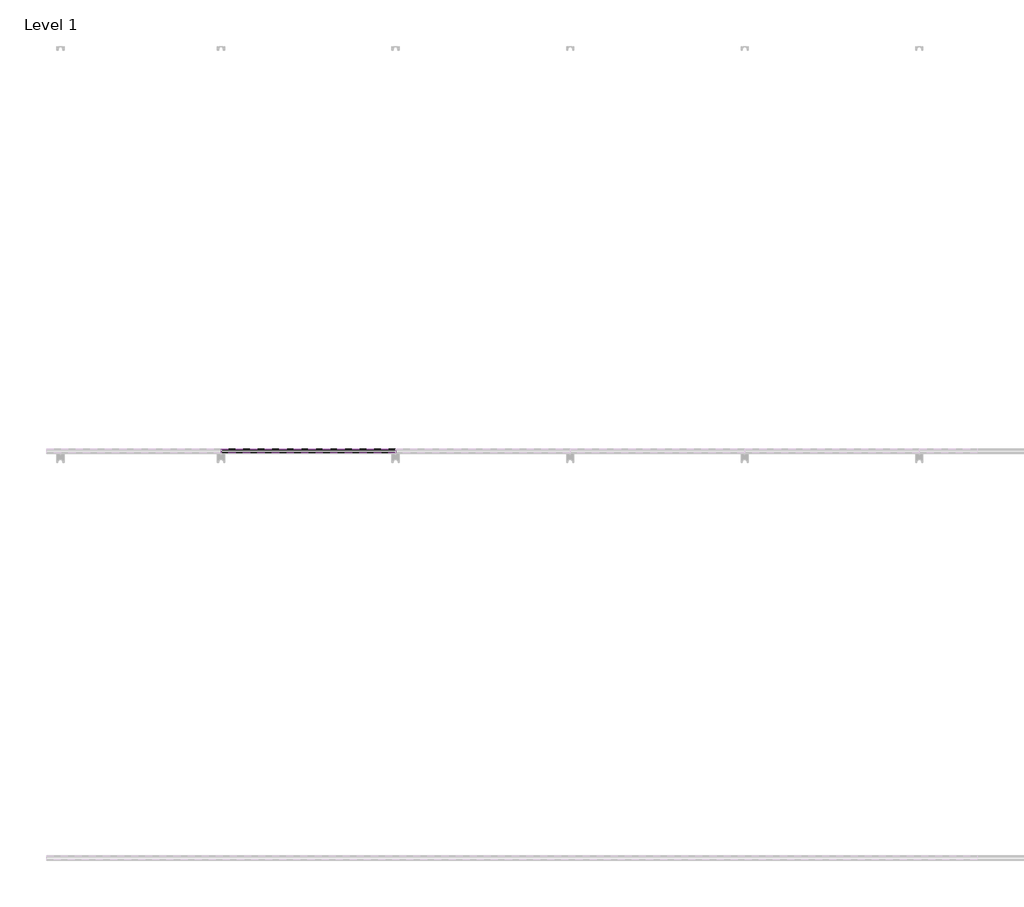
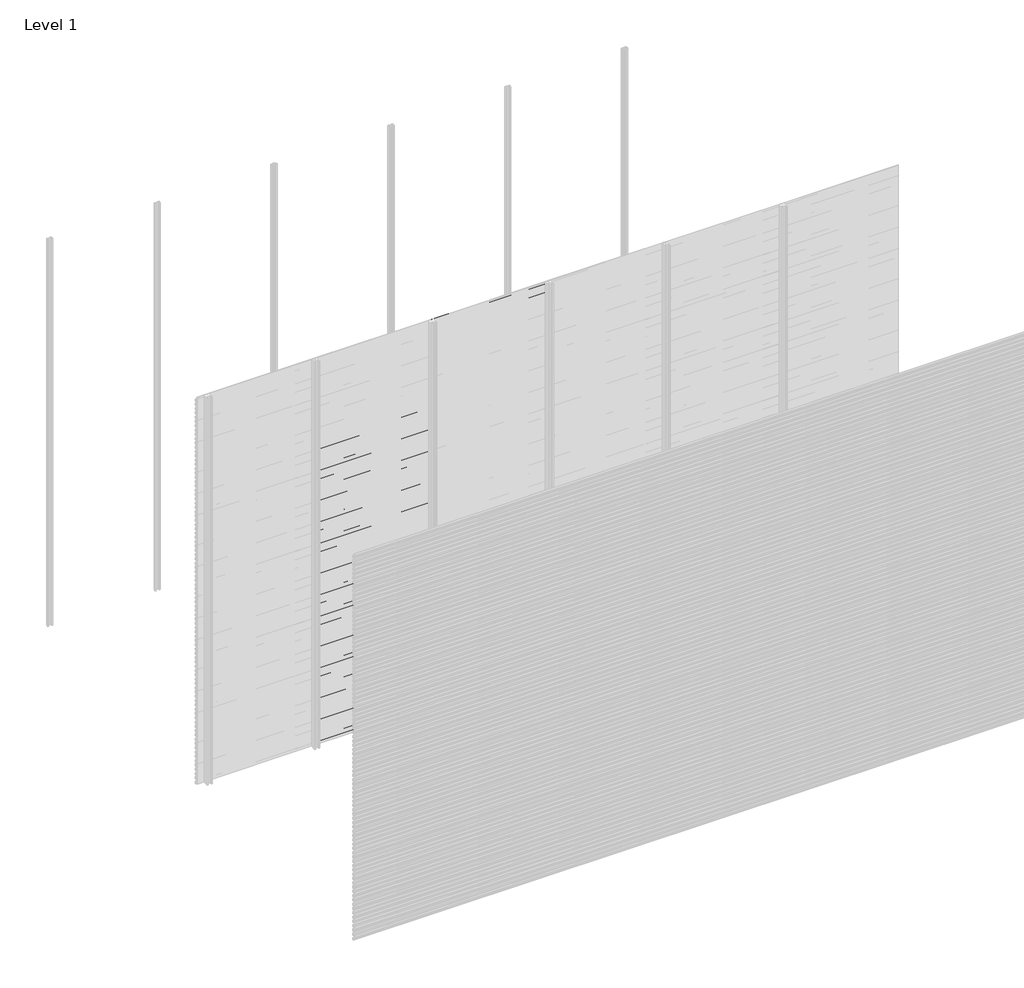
# One storey, part 72 of 96: 77 proxies.
"""IFC4 building model written with IfcOpenShell, lengths in millimetres."""

from ifc_helpers import new_model, si_unit, frame, origin, place, context, project, spatial, polyline, outline, extrude, element, save

model = new_model("IFC4")

# Units and contexts
model_context = context("Model", 3, world=origin())
ifc_project = project(units=[si_unit("LENGTHUNIT", "METRE", prefix="MILLI")], contexts=[model_context])

# Site, building, storey
site = spatial("IfcSite", under=ifc_project)
building = spatial("IfcBuilding", under=site)
storey = spatial("IfcBuildingStorey", under=building, Name="Level 1", Elevation=0.0)

# Proxies
placement = place(None, origin())
element("IfcBuildingElementProxy", 1, Name="Wall Sweeps", at=placement, inside=storey, context=model_context, shape_type="SweptSolid", body=[
    extrude(outline(polyline([(-11977.6, 2305.7655033), (-11977.6, 2291.4779188), (-11982.4114965, 2288.7), (-11982.4114965, 2289.9701706), (-11978.85, 2292.0264016), (-11978.85, 2305.0437382), (-11998.0, 2316.1000799), (-11998.0, 2331.0), (-11996.75, 2331.0), (-11996.75, 2316.8217609), (-11977.6, 2305.7655033)])), frame((857.1428571, 0.0, 0.0), z_axis=(1.0, 0.0, 0.0), x_axis=(0.0, 1.0, 0.0)), (0.0, 0.0, 1.0), 857.1428571),
])
element("IfcBuildingElementProxy", 2, Name="Wall Sweeps", at=placement, inside=storey, context=model_context, shape_type="SweptSolid", body=[
    extrude(outline(polyline([(-11977.6, 2272.4655033), (-11977.6, 2258.1779188), (-11982.4114965, 2255.4), (-11982.4114965, 2256.6701706), (-11978.85, 2258.7264016), (-11978.85, 2271.7437382), (-11998.0, 2282.8000799), (-11998.0, 2297.7), (-11996.75, 2297.7), (-11996.75, 2283.5217609), (-11977.6, 2272.4655033)])), frame((857.1428571, 0.0, 0.0), z_axis=(1.0, 0.0, 0.0), x_axis=(0.0, 1.0, 0.0)), (0.0, 0.0, 1.0), 857.1428571),
])
element("IfcBuildingElementProxy", 3, Name="Wall Sweeps", at=placement, inside=storey, context=model_context, shape_type="SweptSolid", body=[
    extrude(outline(polyline([(-11977.6, 2239.1655033), (-11977.6, 2224.8779188), (-11982.4114965, 2222.1), (-11982.4114965, 2223.3701706), (-11978.85, 2225.4264016), (-11978.85, 2238.4437382), (-11998.0, 2249.5000799), (-11998.0, 2264.4), (-11996.75, 2264.4), (-11996.75, 2250.2217609), (-11977.6, 2239.1655033)])), frame((857.1428571, 0.0, 0.0), z_axis=(1.0, 0.0, 0.0), x_axis=(0.0, 1.0, 0.0)), (0.0, 0.0, 1.0), 857.1428571),
])
element("IfcBuildingElementProxy", 4, Name="Wall Sweeps", at=placement, inside=storey, context=model_context, shape_type="SweptSolid", body=[
    extrude(outline(polyline([(-11977.6, 2205.8655033), (-11977.6, 2191.5779188), (-11982.4114965, 2188.8), (-11982.4114965, 2190.0701706), (-11978.85, 2192.1264016), (-11978.85, 2205.1437382), (-11998.0, 2216.2000799), (-11998.0, 2231.1), (-11996.75, 2231.1), (-11996.75, 2216.9217609), (-11977.6, 2205.8655033)])), frame((857.1428571, 0.0, 0.0), z_axis=(1.0, 0.0, 0.0), x_axis=(0.0, 1.0, 0.0)), (0.0, 0.0, 1.0), 857.1428571),
])
element("IfcBuildingElementProxy", 5, Name="Wall Sweeps", at=placement, inside=storey, context=model_context, shape_type="SweptSolid", body=[
    extrude(outline(polyline([(-11977.6, 2172.5655033), (-11977.6, 2158.2779188), (-11982.4114965, 2155.5), (-11982.4114965, 2156.7701706), (-11978.85, 2158.8264016), (-11978.85, 2171.8437382), (-11998.0, 2182.9000799), (-11998.0, 2197.8), (-11996.75, 2197.8), (-11996.75, 2183.6217609), (-11977.6, 2172.5655033)])), frame((857.1428571, 0.0, 0.0), z_axis=(1.0, 0.0, 0.0), x_axis=(0.0, 1.0, 0.0)), (0.0, 0.0, 1.0), 857.1428571),
])
element("IfcBuildingElementProxy", 6, Name="Wall Sweeps", at=placement, inside=storey, context=model_context, shape_type="SweptSolid", body=[
    extrude(outline(polyline([(-11977.6, 2139.2655033), (-11977.6, 2124.9779188), (-11982.4114965, 2122.2), (-11982.4114965, 2123.4701706), (-11978.85, 2125.5264016), (-11978.85, 2138.5437382), (-11998.0, 2149.6000799), (-11998.0, 2164.5), (-11996.75, 2164.5), (-11996.75, 2150.3217609), (-11977.6, 2139.2655033)])), frame((857.1428571, 0.0, 0.0), z_axis=(1.0, 0.0, 0.0), x_axis=(0.0, 1.0, 0.0)), (0.0, 0.0, 1.0), 857.1428571),
])
element("IfcBuildingElementProxy", 7, Name="Wall Sweeps", at=placement, inside=storey, context=model_context, shape_type="SweptSolid", body=[
    extrude(outline(polyline([(-11977.6, 2105.9655033), (-11977.6, 2091.6779188), (-11982.4114965, 2088.9), (-11982.4114965, 2090.1701706), (-11978.85, 2092.2264016), (-11978.85, 2105.2437382), (-11998.0, 2116.3000799), (-11998.0, 2131.2), (-11996.75, 2131.2), (-11996.75, 2117.0217609), (-11977.6, 2105.9655033)])), frame((857.1428571, 0.0, 0.0), z_axis=(1.0, 0.0, 0.0), x_axis=(0.0, 1.0, 0.0)), (0.0, 0.0, 1.0), 857.1428571),
])
element("IfcBuildingElementProxy", 8, Name="Wall Sweeps", at=placement, inside=storey, context=model_context, shape_type="SweptSolid", body=[
    extrude(outline(polyline([(-11977.6, 2072.6655033), (-11977.6, 2058.3779188), (-11982.4114965, 2055.6), (-11982.4114965, 2056.8701706), (-11978.85, 2058.9264016), (-11978.85, 2071.9437382), (-11998.0, 2083.0000799), (-11998.0, 2097.9), (-11996.75, 2097.9), (-11996.75, 2083.7217609), (-11977.6, 2072.6655033)])), frame((857.1428571, 0.0, 0.0), z_axis=(1.0, 0.0, 0.0), x_axis=(0.0, 1.0, 0.0)), (0.0, 0.0, 1.0), 857.1428571),
])
element("IfcBuildingElementProxy", 9, Name="Wall Sweeps", at=placement, inside=storey, context=model_context, shape_type="SweptSolid", body=[
    extrude(outline(polyline([(-11977.6, 2039.3655033), (-11977.6, 2025.0779188), (-11982.4114965, 2022.3), (-11982.4114965, 2023.5701706), (-11978.85, 2025.6264016), (-11978.85, 2038.6437382), (-11998.0, 2049.7000799), (-11998.0, 2064.6), (-11996.75, 2064.6), (-11996.75, 2050.4217609), (-11977.6, 2039.3655033)])), frame((857.1428571, 0.0, 0.0), z_axis=(1.0, 0.0, 0.0), x_axis=(0.0, 1.0, 0.0)), (0.0, 0.0, 1.0), 857.1428571),
])
element("IfcBuildingElementProxy", 10, Name="Wall Sweeps", at=placement, inside=storey, context=model_context, shape_type="SweptSolid", body=[
    extrude(outline(polyline([(-11977.6, 2006.0655033), (-11977.6, 1991.7779188), (-11982.4114965, 1989.0), (-11982.4114965, 1990.2701706), (-11978.85, 1992.3264016), (-11978.85, 2005.3437382), (-11998.0, 2016.4000799), (-11998.0, 2031.3), (-11996.75, 2031.3), (-11996.75, 2017.1217609), (-11977.6, 2006.0655033)])), frame((857.1428571, 0.0, 0.0), z_axis=(1.0, 0.0, 0.0), x_axis=(0.0, 1.0, 0.0)), (0.0, 0.0, 1.0), 857.1428571),
])
element("IfcBuildingElementProxy", 11, Name="Wall Sweeps", at=placement, inside=storey, context=model_context, shape_type="SweptSolid", body=[
    extrude(outline(polyline([(-11977.6, 1972.7655033), (-11977.6, 1958.4779188), (-11982.4114965, 1955.7), (-11982.4114965, 1956.9701706), (-11978.85, 1959.0264016), (-11978.85, 1972.0437382), (-11998.0, 1983.1000799), (-11998.0, 1998.0), (-11996.75, 1998.0), (-11996.75, 1983.8217609), (-11977.6, 1972.7655033)])), frame((857.1428571, 0.0, 0.0), z_axis=(1.0, 0.0, 0.0), x_axis=(0.0, 1.0, 0.0)), (0.0, 0.0, 1.0), 857.1428571),
])
element("IfcBuildingElementProxy", 12, Name="Wall Sweeps", at=placement, inside=storey, context=model_context, shape_type="SweptSolid", body=[
    extrude(outline(polyline([(-11977.6, 1939.4655033), (-11977.6, 1925.1779188), (-11982.4114965, 1922.4), (-11982.4114965, 1923.6701706), (-11978.85, 1925.7264016), (-11978.85, 1938.7437382), (-11998.0, 1949.8000799), (-11998.0, 1964.7), (-11996.75, 1964.7), (-11996.75, 1950.5217609), (-11977.6, 1939.4655033)])), frame((857.1428571, 0.0, 0.0), z_axis=(1.0, 0.0, 0.0), x_axis=(0.0, 1.0, 0.0)), (0.0, 0.0, 1.0), 857.1428571),
])
element("IfcBuildingElementProxy", 13, Name="Wall Sweeps", at=placement, inside=storey, context=model_context, shape_type="SweptSolid", body=[
    extrude(outline(polyline([(-11977.6, 1906.1655033), (-11977.6, 1891.8779188), (-11982.4114965, 1889.1), (-11982.4114965, 1890.3701706), (-11978.85, 1892.4264016), (-11978.85, 1905.4437382), (-11998.0, 1916.5000799), (-11998.0, 1931.4), (-11996.75, 1931.4), (-11996.75, 1917.2217609), (-11977.6, 1906.1655033)])), frame((857.1428571, 0.0, 0.0), z_axis=(1.0, 0.0, 0.0), x_axis=(0.0, 1.0, 0.0)), (0.0, 0.0, 1.0), 857.1428571),
])
element("IfcBuildingElementProxy", 14, Name="Wall Sweeps", at=placement, inside=storey, context=model_context, shape_type="SweptSolid", body=[
    extrude(outline(polyline([(-11977.6, 1872.8655033), (-11977.6, 1858.5779188), (-11982.4114965, 1855.8), (-11982.4114965, 1857.0701706), (-11978.85, 1859.1264016), (-11978.85, 1872.1437382), (-11998.0, 1883.2000799), (-11998.0, 1898.1), (-11996.75, 1898.1), (-11996.75, 1883.9217609), (-11977.6, 1872.8655033)])), frame((857.1428571, 0.0, 0.0), z_axis=(1.0, 0.0, 0.0), x_axis=(0.0, 1.0, 0.0)), (0.0, 0.0, 1.0), 857.1428571),
])
element("IfcBuildingElementProxy", 15, Name="Wall Sweeps", at=placement, inside=storey, context=model_context, shape_type="SweptSolid", body=[
    extrude(outline(polyline([(-11977.6, 1839.5655033), (-11977.6, 1825.2779188), (-11982.4114965, 1822.5), (-11982.4114965, 1823.7701706), (-11978.85, 1825.8264016), (-11978.85, 1838.8437382), (-11998.0, 1849.9000799), (-11998.0, 1864.8), (-11996.75, 1864.8), (-11996.75, 1850.6217609), (-11977.6, 1839.5655033)])), frame((857.1428571, 0.0, 0.0), z_axis=(1.0, 0.0, 0.0), x_axis=(0.0, 1.0, 0.0)), (0.0, 0.0, 1.0), 857.1428571),
])
element("IfcBuildingElementProxy", 16, Name="Wall Sweeps", at=placement, inside=storey, context=model_context, shape_type="SweptSolid", body=[
    extrude(outline(polyline([(-11977.6, 1806.2655033), (-11977.6, 1791.9779188), (-11982.4114965, 1789.2), (-11982.4114965, 1790.4701706), (-11978.85, 1792.5264016), (-11978.85, 1805.5437382), (-11998.0, 1816.6000799), (-11998.0, 1831.5), (-11996.75, 1831.5), (-11996.75, 1817.3217609), (-11977.6, 1806.2655033)])), frame((857.1428571, 0.0, 0.0), z_axis=(1.0, 0.0, 0.0), x_axis=(0.0, 1.0, 0.0)), (0.0, 0.0, 1.0), 857.1428571),
])
element("IfcBuildingElementProxy", 17, Name="Wall Sweeps", at=placement, inside=storey, context=model_context, shape_type="SweptSolid", body=[
    extrude(outline(polyline([(-11977.6, 1772.9655033), (-11977.6, 1758.6779188), (-11982.4114965, 1755.9), (-11982.4114965, 1757.1701706), (-11978.85, 1759.2264016), (-11978.85, 1772.2437382), (-11998.0, 1783.3000799), (-11998.0, 1798.2), (-11996.75, 1798.2), (-11996.75, 1784.0217609), (-11977.6, 1772.9655033)])), frame((857.1428571, 0.0, 0.0), z_axis=(1.0, 0.0, 0.0), x_axis=(0.0, 1.0, 0.0)), (0.0, 0.0, 1.0), 857.1428571),
])
element("IfcBuildingElementProxy", 18, Name="Wall Sweeps", at=placement, inside=storey, context=model_context, shape_type="SweptSolid", body=[
    extrude(outline(polyline([(-11977.6, 1739.6655033), (-11977.6, 1725.3779188), (-11982.4114965, 1722.6), (-11982.4114965, 1723.8701706), (-11978.85, 1725.9264016), (-11978.85, 1738.9437382), (-11998.0, 1750.0000799), (-11998.0, 1764.9), (-11996.75, 1764.9), (-11996.75, 1750.7217609), (-11977.6, 1739.6655033)])), frame((857.1428571, 0.0, 0.0), z_axis=(1.0, 0.0, 0.0), x_axis=(0.0, 1.0, 0.0)), (0.0, 0.0, 1.0), 857.1428571),
])
element("IfcBuildingElementProxy", 19, Name="Wall Sweeps", at=placement, inside=storey, context=model_context, shape_type="SweptSolid", body=[
    extrude(outline(polyline([(-11977.6, 1706.3655033), (-11977.6, 1692.0779188), (-11982.4114965, 1689.3), (-11982.4114965, 1690.5701706), (-11978.85, 1692.6264016), (-11978.85, 1705.6437382), (-11998.0, 1716.7000799), (-11998.0, 1731.6), (-11996.75, 1731.6), (-11996.75, 1717.4217609), (-11977.6, 1706.3655033)])), frame((857.1428571, 0.0, 0.0), z_axis=(1.0, 0.0, 0.0), x_axis=(0.0, 1.0, 0.0)), (0.0, 0.0, 1.0), 857.1428571),
])
element("IfcBuildingElementProxy", 20, Name="Wall Sweeps", at=placement, inside=storey, context=model_context, shape_type="SweptSolid", body=[
    extrude(outline(polyline([(-11977.6, 1673.0655033), (-11977.6, 1658.7779188), (-11982.4114965, 1656.0), (-11982.4114965, 1657.2701706), (-11978.85, 1659.3264016), (-11978.85, 1672.3437382), (-11998.0, 1683.4000799), (-11998.0, 1698.3), (-11996.75, 1698.3), (-11996.75, 1684.1217609), (-11977.6, 1673.0655033)])), frame((857.1428571, 0.0, 0.0), z_axis=(1.0, 0.0, 0.0), x_axis=(0.0, 1.0, 0.0)), (0.0, 0.0, 1.0), 857.1428571),
])
element("IfcBuildingElementProxy", 21, Name="Wall Sweeps", at=placement, inside=storey, context=model_context, shape_type="SweptSolid", body=[
    extrude(outline(polyline([(-11977.6, 1639.7655033), (-11977.6, 1625.4779188), (-11982.4114965, 1622.7), (-11982.4114965, 1623.9701706), (-11978.85, 1626.0264016), (-11978.85, 1639.0437382), (-11998.0, 1650.1000799), (-11998.0, 1665.0), (-11996.75, 1665.0), (-11996.75, 1650.8217609), (-11977.6, 1639.7655033)])), frame((857.1428571, 0.0, 0.0), z_axis=(1.0, 0.0, 0.0), x_axis=(0.0, 1.0, 0.0)), (0.0, 0.0, 1.0), 857.1428571),
])
element("IfcBuildingElementProxy", 22, Name="Wall Sweeps", at=placement, inside=storey, context=model_context, shape_type="SweptSolid", body=[
    extrude(outline(polyline([(-11977.6, 1606.4655033), (-11977.6, 1592.1779188), (-11982.4114965, 1589.4), (-11982.4114965, 1590.6701706), (-11978.85, 1592.7264016), (-11978.85, 1605.7437382), (-11998.0, 1616.8000799), (-11998.0, 1631.7), (-11996.75, 1631.7), (-11996.75, 1617.5217609), (-11977.6, 1606.4655033)])), frame((857.1428571, 0.0, 0.0), z_axis=(1.0, 0.0, 0.0), x_axis=(0.0, 1.0, 0.0)), (0.0, 0.0, 1.0), 857.1428571),
])
element("IfcBuildingElementProxy", 23, Name="Wall Sweeps", at=placement, inside=storey, context=model_context, shape_type="SweptSolid", body=[
    extrude(outline(polyline([(-11977.6, 1573.1655033), (-11977.6, 1558.8779188), (-11982.4114965, 1556.1), (-11982.4114965, 1557.3701706), (-11978.85, 1559.4264016), (-11978.85, 1572.4437382), (-11998.0, 1583.5000799), (-11998.0, 1598.4), (-11996.75, 1598.4), (-11996.75, 1584.2217609), (-11977.6, 1573.1655033)])), frame((857.1428571, 0.0, 0.0), z_axis=(1.0, 0.0, 0.0), x_axis=(0.0, 1.0, 0.0)), (0.0, 0.0, 1.0), 857.1428571),
])
element("IfcBuildingElementProxy", 24, Name="Wall Sweeps", at=placement, inside=storey, context=model_context, shape_type="SweptSolid", body=[
    extrude(outline(polyline([(-11977.6, 1539.8655033), (-11977.6, 1525.5779188), (-11982.4114965, 1522.8), (-11982.4114965, 1524.0701706), (-11978.85, 1526.1264016), (-11978.85, 1539.1437382), (-11998.0, 1550.2000799), (-11998.0, 1565.1), (-11996.75, 1565.1), (-11996.75, 1550.9217609), (-11977.6, 1539.8655033)])), frame((857.1428571, 0.0, 0.0), z_axis=(1.0, 0.0, 0.0), x_axis=(0.0, 1.0, 0.0)), (0.0, 0.0, 1.0), 857.1428571),
])
element("IfcBuildingElementProxy", 25, Name="Wall Sweeps", at=placement, inside=storey, context=model_context, shape_type="SweptSolid", body=[
    extrude(outline(polyline([(-11977.6, 1506.5655033), (-11977.6, 1492.2779188), (-11982.4114965, 1489.5), (-11982.4114965, 1490.7701706), (-11978.85, 1492.8264016), (-11978.85, 1505.8437382), (-11998.0, 1516.9000799), (-11998.0, 1531.8), (-11996.75, 1531.8), (-11996.75, 1517.6217609), (-11977.6, 1506.5655033)])), frame((857.1428571, 0.0, 0.0), z_axis=(1.0, 0.0, 0.0), x_axis=(0.0, 1.0, 0.0)), (0.0, 0.0, 1.0), 857.1428571),
])
element("IfcBuildingElementProxy", 26, Name="Wall Sweeps", at=placement, inside=storey, context=model_context, shape_type="SweptSolid", body=[
    extrude(outline(polyline([(-11977.6, 1473.2655033), (-11977.6, 1458.9779188), (-11982.4114965, 1456.2), (-11982.4114965, 1457.4701706), (-11978.85, 1459.5264016), (-11978.85, 1472.5437382), (-11998.0, 1483.6000799), (-11998.0, 1498.5), (-11996.75, 1498.5), (-11996.75, 1484.3217609), (-11977.6, 1473.2655033)])), frame((857.1428571, 0.0, 0.0), z_axis=(1.0, 0.0, 0.0), x_axis=(0.0, 1.0, 0.0)), (0.0, 0.0, 1.0), 857.1428571),
])
element("IfcBuildingElementProxy", 27, Name="Wall Sweeps", at=placement, inside=storey, context=model_context, shape_type="SweptSolid", body=[
    extrude(outline(polyline([(-11977.6, 1439.9655033), (-11977.6, 1425.6779188), (-11982.4114965, 1422.9), (-11982.4114965, 1424.1701706), (-11978.85, 1426.2264016), (-11978.85, 1439.2437382), (-11998.0, 1450.3000799), (-11998.0, 1465.2), (-11996.75, 1465.2), (-11996.75, 1451.0217609), (-11977.6, 1439.9655033)])), frame((857.1428571, 0.0, 0.0), z_axis=(1.0, 0.0, 0.0), x_axis=(0.0, 1.0, 0.0)), (0.0, 0.0, 1.0), 857.1428571),
])
element("IfcBuildingElementProxy", 28, Name="Wall Sweeps", at=placement, inside=storey, context=model_context, shape_type="SweptSolid", body=[
    extrude(outline(polyline([(-11977.6, 1406.6655033), (-11977.6, 1392.3779188), (-11982.4114965, 1389.6), (-11982.4114965, 1390.8701706), (-11978.85, 1392.9264016), (-11978.85, 1405.9437382), (-11998.0, 1417.0000799), (-11998.0, 1431.9), (-11996.75, 1431.9), (-11996.75, 1417.7217609), (-11977.6, 1406.6655033)])), frame((857.1428571, 0.0, 0.0), z_axis=(1.0, 0.0, 0.0), x_axis=(0.0, 1.0, 0.0)), (0.0, 0.0, 1.0), 857.1428571),
])
element("IfcBuildingElementProxy", 29, Name="Wall Sweeps", at=placement, inside=storey, context=model_context, shape_type="SweptSolid", body=[
    extrude(outline(polyline([(-11977.6, 1373.3655033), (-11977.6, 1359.0779188), (-11982.4114965, 1356.3), (-11982.4114965, 1357.5701706), (-11978.85, 1359.6264016), (-11978.85, 1372.6437382), (-11998.0, 1383.7000799), (-11998.0, 1398.6), (-11996.75, 1398.6), (-11996.75, 1384.4217609), (-11977.6, 1373.3655033)])), frame((857.1428571, 0.0, 0.0), z_axis=(1.0, 0.0, 0.0), x_axis=(0.0, 1.0, 0.0)), (0.0, 0.0, 1.0), 857.1428571),
])
element("IfcBuildingElementProxy", 30, Name="Wall Sweeps", at=placement, inside=storey, context=model_context, shape_type="SweptSolid", body=[
    extrude(outline(polyline([(-11977.6, 1340.0655033), (-11977.6, 1325.7779188), (-11982.4114965, 1323.0), (-11982.4114965, 1324.2701706), (-11978.85, 1326.3264016), (-11978.85, 1339.3437382), (-11998.0, 1350.4000799), (-11998.0, 1365.3), (-11996.75, 1365.3), (-11996.75, 1351.1217609), (-11977.6, 1340.0655033)])), frame((857.1428571, 0.0, 0.0), z_axis=(1.0, 0.0, 0.0), x_axis=(0.0, 1.0, 0.0)), (0.0, 0.0, 1.0), 857.1428571),
])
element("IfcBuildingElementProxy", 31, Name="Wall Sweeps", at=placement, inside=storey, context=model_context, shape_type="SweptSolid", body=[
    extrude(outline(polyline([(-11977.6, 1306.7655033), (-11977.6, 1292.4779188), (-11982.4114965, 1289.7), (-11982.4114965, 1290.9701706), (-11978.85, 1293.0264016), (-11978.85, 1306.0437382), (-11998.0, 1317.1000799), (-11998.0, 1332.0), (-11996.75, 1332.0), (-11996.75, 1317.8217609), (-11977.6, 1306.7655033)])), frame((857.1428571, 0.0, 0.0), z_axis=(1.0, 0.0, 0.0), x_axis=(0.0, 1.0, 0.0)), (0.0, 0.0, 1.0), 857.1428571),
])
element("IfcBuildingElementProxy", 32, Name="Wall Sweeps", at=placement, inside=storey, context=model_context, shape_type="SweptSolid", body=[
    extrude(outline(polyline([(-11977.6, 1273.4655033), (-11977.6, 1259.1779188), (-11982.4114965, 1256.4), (-11982.4114965, 1257.6701706), (-11978.85, 1259.7264016), (-11978.85, 1272.7437382), (-11998.0, 1283.8000799), (-11998.0, 1298.7), (-11996.75, 1298.7), (-11996.75, 1284.5217609), (-11977.6, 1273.4655033)])), frame((857.1428571, 0.0, 0.0), z_axis=(1.0, 0.0, 0.0), x_axis=(0.0, 1.0, 0.0)), (0.0, 0.0, 1.0), 857.1428571),
])
element("IfcBuildingElementProxy", 33, Name="Wall Sweeps", at=placement, inside=storey, context=model_context, shape_type="SweptSolid", body=[
    extrude(outline(polyline([(-11977.6, 1240.1655033), (-11977.6, 1225.8779188), (-11982.4114965, 1223.1), (-11982.4114965, 1224.3701706), (-11978.85, 1226.4264016), (-11978.85, 1239.4437382), (-11998.0, 1250.5000799), (-11998.0, 1265.4), (-11996.75, 1265.4), (-11996.75, 1251.2217609), (-11977.6, 1240.1655033)])), frame((857.1428571, 0.0, 0.0), z_axis=(1.0, 0.0, 0.0), x_axis=(0.0, 1.0, 0.0)), (0.0, 0.0, 1.0), 857.1428571),
])
element("IfcBuildingElementProxy", 34, Name="Wall Sweeps", at=placement, inside=storey, context=model_context, shape_type="SweptSolid", body=[
    extrude(outline(polyline([(-11977.6, 1206.8655033), (-11977.6, 1192.5779188), (-11982.4114965, 1189.8), (-11982.4114965, 1191.0701706), (-11978.85, 1193.1264016), (-11978.85, 1206.1437382), (-11998.0, 1217.2000799), (-11998.0, 1232.1), (-11996.75, 1232.1), (-11996.75, 1217.9217609), (-11977.6, 1206.8655033)])), frame((857.1428571, 0.0, 0.0), z_axis=(1.0, 0.0, 0.0), x_axis=(0.0, 1.0, 0.0)), (0.0, 0.0, 1.0), 857.1428571),
])
element("IfcBuildingElementProxy", 35, Name="Wall Sweeps", at=placement, inside=storey, context=model_context, shape_type="SweptSolid", body=[
    extrude(outline(polyline([(-11977.6, 1173.5655033), (-11977.6, 1159.2779188), (-11982.4114965, 1156.5), (-11982.4114965, 1157.7701706), (-11978.85, 1159.8264016), (-11978.85, 1172.8437382), (-11998.0, 1183.9000799), (-11998.0, 1198.8), (-11996.75, 1198.8), (-11996.75, 1184.6217609), (-11977.6, 1173.5655033)])), frame((857.1428571, 0.0, 0.0), z_axis=(1.0, 0.0, 0.0), x_axis=(0.0, 1.0, 0.0)), (0.0, 0.0, 1.0), 857.1428571),
])
element("IfcBuildingElementProxy", 36, Name="Wall Sweeps", at=placement, inside=storey, context=model_context, shape_type="SweptSolid", body=[
    extrude(outline(polyline([(-11977.6, 1140.2655033), (-11977.6, 1125.9779188), (-11982.4114965, 1123.2), (-11982.4114965, 1124.4701706), (-11978.85, 1126.5264016), (-11978.85, 1139.5437382), (-11998.0, 1150.6000799), (-11998.0, 1165.5), (-11996.75, 1165.5), (-11996.75, 1151.3217609), (-11977.6, 1140.2655033)])), frame((857.1428571, 0.0, 0.0), z_axis=(1.0, 0.0, 0.0), x_axis=(0.0, 1.0, 0.0)), (0.0, 0.0, 1.0), 857.1428571),
])
element("IfcBuildingElementProxy", 37, Name="Wall Sweeps", at=placement, inside=storey, context=model_context, shape_type="SweptSolid", body=[
    extrude(outline(polyline([(-11977.6, 1106.9655033), (-11977.6, 1092.6779188), (-11982.4114965, 1089.9), (-11982.4114965, 1091.1701706), (-11978.85, 1093.2264016), (-11978.85, 1106.2437382), (-11998.0, 1117.3000799), (-11998.0, 1132.2), (-11996.75, 1132.2), (-11996.75, 1118.0217609), (-11977.6, 1106.9655033)])), frame((857.1428571, 0.0, 0.0), z_axis=(1.0, 0.0, 0.0), x_axis=(0.0, 1.0, 0.0)), (0.0, 0.0, 1.0), 857.1428571),
])
element("IfcBuildingElementProxy", 38, Name="Wall Sweeps", at=placement, inside=storey, context=model_context, shape_type="SweptSolid", body=[
    extrude(outline(polyline([(-11977.6, 1073.6655033), (-11977.6, 1059.3779188), (-11982.4114965, 1056.6), (-11982.4114965, 1057.8701706), (-11978.85, 1059.9264016), (-11978.85, 1072.9437382), (-11998.0, 1084.0000799), (-11998.0, 1098.9), (-11996.75, 1098.9), (-11996.75, 1084.7217609), (-11977.6, 1073.6655033)])), frame((857.1428571, 0.0, 0.0), z_axis=(1.0, 0.0, 0.0), x_axis=(0.0, 1.0, 0.0)), (0.0, 0.0, 1.0), 857.1428571),
])
element("IfcBuildingElementProxy", 39, Name="Wall Sweeps", at=placement, inside=storey, context=model_context, shape_type="SweptSolid", body=[
    extrude(outline(polyline([(-11977.6, 1040.3655033), (-11977.6, 1026.0779188), (-11982.4114965, 1023.3), (-11982.4114965, 1024.5701706), (-11978.85, 1026.6264016), (-11978.85, 1039.6437382), (-11998.0, 1050.7000799), (-11998.0, 1065.6), (-11996.75, 1065.6), (-11996.75, 1051.4217609), (-11977.6, 1040.3655033)])), frame((857.1428571, 0.0, 0.0), z_axis=(1.0, 0.0, 0.0), x_axis=(0.0, 1.0, 0.0)), (0.0, 0.0, 1.0), 857.1428571),
])
element("IfcBuildingElementProxy", 40, Name="Wall Sweeps", at=placement, inside=storey, context=model_context, shape_type="SweptSolid", body=[
    extrude(outline(polyline([(-11977.6, 1007.0655033), (-11977.6, 992.7779188), (-11982.4114965, 990.0), (-11982.4114965, 991.2701706), (-11978.85, 993.3264016), (-11978.85, 1006.3437382), (-11998.0, 1017.4000799), (-11998.0, 1032.3), (-11996.75, 1032.3), (-11996.75, 1018.1217609), (-11977.6, 1007.0655033)])), frame((857.1428571, 0.0, 0.0), z_axis=(1.0, 0.0, 0.0), x_axis=(0.0, 1.0, 0.0)), (0.0, 0.0, 1.0), 857.1428571),
])
element("IfcBuildingElementProxy", 41, Name="Wall Sweeps", at=placement, inside=storey, context=model_context, shape_type="SweptSolid", body=[
    extrude(outline(polyline([(-11977.6, 973.7655033), (-11977.6, 959.4779188), (-11982.4114965, 956.7), (-11982.4114965, 957.9701706), (-11978.85, 960.0264016), (-11978.85, 973.0437382), (-11998.0, 984.1000799), (-11998.0, 999.0), (-11996.75, 999.0), (-11996.75, 984.8217609), (-11977.6, 973.7655033)])), frame((857.1428571, 0.0, 0.0), z_axis=(1.0, 0.0, 0.0), x_axis=(0.0, 1.0, 0.0)), (0.0, 0.0, 1.0), 857.1428571),
])
element("IfcBuildingElementProxy", 42, Name="Wall Sweeps", at=placement, inside=storey, context=model_context, shape_type="SweptSolid", body=[
    extrude(outline(polyline([(-11977.6, 940.4655033), (-11977.6, 926.1779188), (-11982.4114965, 923.4), (-11982.4114965, 924.6701706), (-11978.85, 926.7264016), (-11978.85, 939.7437382), (-11998.0, 950.8000799), (-11998.0, 965.7), (-11996.75, 965.7), (-11996.75, 951.5217609), (-11977.6, 940.4655033)])), frame((857.1428571, 0.0, 0.0), z_axis=(1.0, 0.0, 0.0), x_axis=(0.0, 1.0, 0.0)), (0.0, 0.0, 1.0), 857.1428571),
])
element("IfcBuildingElementProxy", 43, Name="Wall Sweeps", at=placement, inside=storey, context=model_context, shape_type="SweptSolid", body=[
    extrude(outline(polyline([(-11977.6, 907.1655033), (-11977.6, 892.8779188), (-11982.4114965, 890.1), (-11982.4114965, 891.3701706), (-11978.85, 893.4264016), (-11978.85, 906.4437382), (-11998.0, 917.5000799), (-11998.0, 932.4), (-11996.75, 932.4), (-11996.75, 918.2217609), (-11977.6, 907.1655033)])), frame((857.1428571, 0.0, 0.0), z_axis=(1.0, 0.0, 0.0), x_axis=(0.0, 1.0, 0.0)), (0.0, 0.0, 1.0), 857.1428571),
])
element("IfcBuildingElementProxy", 44, Name="Wall Sweeps", at=placement, inside=storey, context=model_context, shape_type="SweptSolid", body=[
    extrude(outline(polyline([(-11977.6, 873.8655033), (-11977.6, 859.5779188), (-11982.4114965, 856.8), (-11982.4114965, 858.0701706), (-11978.85, 860.1264016), (-11978.85, 873.1437382), (-11998.0, 884.2000799), (-11998.0, 899.1), (-11996.75, 899.1), (-11996.75, 884.9217609), (-11977.6, 873.8655033)])), frame((857.1428571, 0.0, 0.0), z_axis=(1.0, 0.0, 0.0), x_axis=(0.0, 1.0, 0.0)), (0.0, 0.0, 1.0), 857.1428571),
])
element("IfcBuildingElementProxy", 45, Name="Wall Sweeps", at=placement, inside=storey, context=model_context, shape_type="SweptSolid", body=[
    extrude(outline(polyline([(-11977.6, 840.5655033), (-11977.6, 826.2779188), (-11982.4114965, 823.5), (-11982.4114965, 824.7701706), (-11978.85, 826.8264016), (-11978.85, 839.8437382), (-11998.0, 850.9000799), (-11998.0, 865.8), (-11996.75, 865.8), (-11996.75, 851.6217609), (-11977.6, 840.5655033)])), frame((857.1428571, 0.0, 0.0), z_axis=(1.0, 0.0, 0.0), x_axis=(0.0, 1.0, 0.0)), (0.0, 0.0, 1.0), 857.1428571),
])
element("IfcBuildingElementProxy", 46, Name="Wall Sweeps", at=placement, inside=storey, context=model_context, shape_type="SweptSolid", body=[
    extrude(outline(polyline([(-11977.6, 807.2655033), (-11977.6, 792.9779188), (-11982.4114965, 790.2), (-11982.4114965, 791.4701706), (-11978.85, 793.5264016), (-11978.85, 806.5437382), (-11998.0, 817.6000799), (-11998.0, 832.5), (-11996.75, 832.5), (-11996.75, 818.3217609), (-11977.6, 807.2655033)])), frame((857.1428571, 0.0, 0.0), z_axis=(1.0, 0.0, 0.0), x_axis=(0.0, 1.0, 0.0)), (0.0, 0.0, 1.0), 857.1428571),
])
element("IfcBuildingElementProxy", 47, Name="Wall Sweeps", at=placement, inside=storey, context=model_context, shape_type="SweptSolid", body=[
    extrude(outline(polyline([(-11977.6, 773.9655033), (-11977.6, 759.6779188), (-11982.4114965, 756.9), (-11982.4114965, 758.1701706), (-11978.85, 760.2264016), (-11978.85, 773.2437382), (-11998.0, 784.3000799), (-11998.0, 799.2), (-11996.75, 799.2), (-11996.75, 785.0217609), (-11977.6, 773.9655033)])), frame((857.1428571, 0.0, 0.0), z_axis=(1.0, 0.0, 0.0), x_axis=(0.0, 1.0, 0.0)), (0.0, 0.0, 1.0), 857.1428571),
])
element("IfcBuildingElementProxy", 48, Name="Wall Sweeps", at=placement, inside=storey, context=model_context, shape_type="SweptSolid", body=[
    extrude(outline(polyline([(-11977.6, 740.6655033), (-11977.6, 726.3779188), (-11982.4114965, 723.6), (-11982.4114965, 724.8701706), (-11978.85, 726.9264016), (-11978.85, 739.9437382), (-11998.0, 751.0000799), (-11998.0, 765.9), (-11996.75, 765.9), (-11996.75, 751.7217609), (-11977.6, 740.6655033)])), frame((857.1428571, 0.0, 0.0), z_axis=(1.0, 0.0, 0.0), x_axis=(0.0, 1.0, 0.0)), (0.0, 0.0, 1.0), 857.1428571),
])
element("IfcBuildingElementProxy", 49, Name="Wall Sweeps", at=placement, inside=storey, context=model_context, shape_type="SweptSolid", body=[
    extrude(outline(polyline([(-11977.6, 707.3655033), (-11977.6, 693.0779188), (-11982.4114965, 690.3), (-11982.4114965, 691.5701706), (-11978.85, 693.6264016), (-11978.85, 706.6437382), (-11998.0, 717.7000799), (-11998.0, 732.6), (-11996.75, 732.6), (-11996.75, 718.4217609), (-11977.6, 707.3655033)])), frame((857.1428571, 0.0, 0.0), z_axis=(1.0, 0.0, 0.0), x_axis=(0.0, 1.0, 0.0)), (0.0, 0.0, 1.0), 857.1428571),
])
element("IfcBuildingElementProxy", 50, Name="Wall Sweeps", at=placement, inside=storey, context=model_context, shape_type="SweptSolid", body=[
    extrude(outline(polyline([(-11977.6, 674.0655033), (-11977.6, 659.7779188), (-11982.4114965, 657.0), (-11982.4114965, 658.2701706), (-11978.85, 660.3264016), (-11978.85, 673.3437382), (-11998.0, 684.4000799), (-11998.0, 699.3), (-11996.75, 699.3), (-11996.75, 685.1217609), (-11977.6, 674.0655033)])), frame((857.1428571, 0.0, 0.0), z_axis=(1.0, 0.0, 0.0), x_axis=(0.0, 1.0, 0.0)), (0.0, 0.0, 1.0), 857.1428571),
])
element("IfcBuildingElementProxy", 51, Name="Wall Sweeps", at=placement, inside=storey, context=model_context, shape_type="SweptSolid", body=[
    extrude(outline(polyline([(-11977.6, 640.7655033), (-11977.6, 626.4779188), (-11982.4114965, 623.7), (-11982.4114965, 624.9701706), (-11978.85, 627.0264016), (-11978.85, 640.0437382), (-11998.0, 651.1000799), (-11998.0, 666.0), (-11996.75, 666.0), (-11996.75, 651.8217609), (-11977.6, 640.7655033)])), frame((857.1428571, 0.0, 0.0), z_axis=(1.0, 0.0, 0.0), x_axis=(0.0, 1.0, 0.0)), (0.0, 0.0, 1.0), 857.1428571),
])
element("IfcBuildingElementProxy", 52, Name="Wall Sweeps", at=placement, inside=storey, context=model_context, shape_type="SweptSolid", body=[
    extrude(outline(polyline([(-11977.6, 607.4655033), (-11977.6, 593.1779188), (-11982.4114965, 590.4), (-11982.4114965, 591.6701706), (-11978.85, 593.7264016), (-11978.85, 606.7437382), (-11998.0, 617.8000799), (-11998.0, 632.7), (-11996.75, 632.7), (-11996.75, 618.5217609), (-11977.6, 607.4655033)])), frame((857.1428571, 0.0, 0.0), z_axis=(1.0, 0.0, 0.0), x_axis=(0.0, 1.0, 0.0)), (0.0, 0.0, 1.0), 857.1428571),
])
element("IfcBuildingElementProxy", 53, Name="Wall Sweeps", at=placement, inside=storey, context=model_context, shape_type="SweptSolid", body=[
    extrude(outline(polyline([(-11977.6, 574.1655033), (-11977.6, 559.8779188), (-11982.4114965, 557.1), (-11982.4114965, 558.3701706), (-11978.85, 560.4264016), (-11978.85, 573.4437382), (-11998.0, 584.5000799), (-11998.0, 599.4), (-11996.75, 599.4), (-11996.75, 585.2217609), (-11977.6, 574.1655033)])), frame((857.1428571, 0.0, 0.0), z_axis=(1.0, 0.0, 0.0), x_axis=(0.0, 1.0, 0.0)), (0.0, 0.0, 1.0), 857.1428571),
])
element("IfcBuildingElementProxy", 54, Name="Wall Sweeps", at=placement, inside=storey, context=model_context, shape_type="SweptSolid", body=[
    extrude(outline(polyline([(-11977.6, 540.8655033), (-11977.6, 526.5779188), (-11982.4114965, 523.8), (-11982.4114965, 525.0701706), (-11978.85, 527.1264016), (-11978.85, 540.1437382), (-11998.0, 551.2000799), (-11998.0, 566.1), (-11996.75, 566.1), (-11996.75, 551.9217609), (-11977.6, 540.8655033)])), frame((857.1428571, 0.0, 0.0), z_axis=(1.0, 0.0, 0.0), x_axis=(0.0, 1.0, 0.0)), (0.0, 0.0, 1.0), 857.1428571),
])
element("IfcBuildingElementProxy", 55, Name="Wall Sweeps", at=placement, inside=storey, context=model_context, shape_type="SweptSolid", body=[
    extrude(outline(polyline([(-11977.6, 507.5655033), (-11977.6, 493.2779188), (-11982.4114965, 490.5), (-11982.4114965, 491.7701706), (-11978.85, 493.8264016), (-11978.85, 506.8437382), (-11998.0, 517.9000799), (-11998.0, 532.8), (-11996.75, 532.8), (-11996.75, 518.6217609), (-11977.6, 507.5655033)])), frame((857.1428571, 0.0, 0.0), z_axis=(1.0, 0.0, 0.0), x_axis=(0.0, 1.0, 0.0)), (0.0, 0.0, 1.0), 857.1428571),
])
element("IfcBuildingElementProxy", 56, Name="Wall Sweeps", at=placement, inside=storey, context=model_context, shape_type="SweptSolid", body=[
    extrude(outline(polyline([(-11977.6, 474.2655033), (-11977.6, 459.9779188), (-11982.4114965, 457.2), (-11982.4114965, 458.4701706), (-11978.85, 460.5264016), (-11978.85, 473.5437382), (-11998.0, 484.6000799), (-11998.0, 499.5), (-11996.75, 499.5), (-11996.75, 485.3217609), (-11977.6, 474.2655033)])), frame((857.1428571, 0.0, 0.0), z_axis=(1.0, 0.0, 0.0), x_axis=(0.0, 1.0, 0.0)), (0.0, 0.0, 1.0), 857.1428571),
])
element("IfcBuildingElementProxy", 57, Name="Wall Sweeps", at=placement, inside=storey, context=model_context, shape_type="SweptSolid", body=[
    extrude(outline(polyline([(-11977.6, 440.9655033), (-11977.6, 426.6779188), (-11982.4114965, 423.9), (-11982.4114965, 425.1701706), (-11978.85, 427.2264016), (-11978.85, 440.2437382), (-11998.0, 451.3000799), (-11998.0, 466.2), (-11996.75, 466.2), (-11996.75, 452.0217609), (-11977.6, 440.9655033)])), frame((857.1428571, 0.0, 0.0), z_axis=(1.0, 0.0, 0.0), x_axis=(0.0, 1.0, 0.0)), (0.0, 0.0, 1.0), 857.1428571),
])
element("IfcBuildingElementProxy", 58, Name="Wall Sweeps", at=placement, inside=storey, context=model_context, shape_type="SweptSolid", body=[
    extrude(outline(polyline([(-11977.6, 407.6655033), (-11977.6, 393.3779188), (-11982.4114965, 390.6), (-11982.4114965, 391.8701706), (-11978.85, 393.9264016), (-11978.85, 406.9437382), (-11998.0, 418.0000799), (-11998.0, 432.9), (-11996.75, 432.9), (-11996.75, 418.7217609), (-11977.6, 407.6655033)])), frame((857.1428571, 0.0, 0.0), z_axis=(1.0, 0.0, 0.0), x_axis=(0.0, 1.0, 0.0)), (0.0, 0.0, 1.0), 857.1428571),
])
element("IfcBuildingElementProxy", 59, Name="Wall Sweeps", at=placement, inside=storey, context=model_context, shape_type="SweptSolid", body=[
    extrude(outline(polyline([(-11977.6, 374.3655033), (-11977.6, 360.0779188), (-11982.4114965, 357.3), (-11982.4114965, 358.5701706), (-11978.85, 360.6264016), (-11978.85, 373.6437382), (-11998.0, 384.7000799), (-11998.0, 399.6), (-11996.75, 399.6), (-11996.75, 385.4217609), (-11977.6, 374.3655033)])), frame((857.1428571, 0.0, 0.0), z_axis=(1.0, 0.0, 0.0), x_axis=(0.0, 1.0, 0.0)), (0.0, 0.0, 1.0), 857.1428571),
])
element("IfcBuildingElementProxy", 60, Name="Wall Sweeps", at=placement, inside=storey, context=model_context, shape_type="SweptSolid", body=[
    extrude(outline(polyline([(-11977.6, 341.0655033), (-11977.6, 326.7779188), (-11982.4114965, 324.0), (-11982.4114965, 325.2701706), (-11978.85, 327.3264016), (-11978.85, 340.3437382), (-11998.0, 351.4000799), (-11998.0, 366.3), (-11996.75, 366.3), (-11996.75, 352.1217609), (-11977.6, 341.0655033)])), frame((857.1428571, 0.0, 0.0), z_axis=(1.0, 0.0, 0.0), x_axis=(0.0, 1.0, 0.0)), (0.0, 0.0, 1.0), 857.1428571),
])
element("IfcBuildingElementProxy", 61, Name="Wall Sweeps", at=placement, inside=storey, context=model_context, shape_type="SweptSolid", body=[
    extrude(outline(polyline([(-11977.6, 307.7655033), (-11977.6, 293.4779188), (-11982.4114965, 290.7), (-11982.4114965, 291.9701706), (-11978.85, 294.0264016), (-11978.85, 307.0437382), (-11998.0, 318.1000799), (-11998.0, 333.0), (-11996.75, 333.0), (-11996.75, 318.8217609), (-11977.6, 307.7655033)])), frame((857.1428571, 0.0, 0.0), z_axis=(1.0, 0.0, 0.0), x_axis=(0.0, 1.0, 0.0)), (0.0, 0.0, 1.0), 857.1428571),
])
element("IfcBuildingElementProxy", 62, Name="Wall Sweeps", at=placement, inside=storey, context=model_context, shape_type="SweptSolid", body=[
    extrude(outline(polyline([(-11977.6, 274.4655033), (-11977.6, 260.1779188), (-11982.4114965, 257.4), (-11982.4114965, 258.6701706), (-11978.85, 260.7264016), (-11978.85, 273.7437382), (-11998.0, 284.8000799), (-11998.0, 299.7), (-11996.75, 299.7), (-11996.75, 285.5217609), (-11977.6, 274.4655033)])), frame((857.1428571, 0.0, 0.0), z_axis=(1.0, 0.0, 0.0), x_axis=(0.0, 1.0, 0.0)), (0.0, 0.0, 1.0), 857.1428571),
])
element("IfcBuildingElementProxy", 63, Name="Wall Sweeps", at=placement, inside=storey, context=model_context, shape_type="SweptSolid", body=[
    extrude(outline(polyline([(-11977.6, 241.1655033), (-11977.6, 226.8779188), (-11982.4114965, 224.1), (-11982.4114965, 225.3701706), (-11978.85, 227.4264016), (-11978.85, 240.4437382), (-11998.0, 251.5000799), (-11998.0, 266.4), (-11996.75, 266.4), (-11996.75, 252.2217609), (-11977.6, 241.1655033)])), frame((857.1428571, 0.0, 0.0), z_axis=(1.0, 0.0, 0.0), x_axis=(0.0, 1.0, 0.0)), (0.0, 0.0, 1.0), 857.1428571),
])
element("IfcBuildingElementProxy", 64, Name="Wall Sweeps", at=placement, inside=storey, context=model_context, shape_type="SweptSolid", body=[
    extrude(outline(polyline([(-11977.6, 207.8655033), (-11977.6, 193.5779188), (-11982.4114965, 190.8), (-11982.4114965, 192.0701706), (-11978.85, 194.1264016), (-11978.85, 207.1437382), (-11998.0, 218.2000799), (-11998.0, 233.1), (-11996.75, 233.1), (-11996.75, 218.9217609), (-11977.6, 207.8655033)])), frame((857.1428571, 0.0, 0.0), z_axis=(1.0, 0.0, 0.0), x_axis=(0.0, 1.0, 0.0)), (0.0, 0.0, 1.0), 857.1428571),
])
element("IfcBuildingElementProxy", 65, Name="Wall Sweeps", at=placement, inside=storey, context=model_context, shape_type="SweptSolid", body=[
    extrude(outline(polyline([(-11977.6, 174.5655033), (-11977.6, 160.2779188), (-11982.4114965, 157.5), (-11982.4114965, 158.7701706), (-11978.85, 160.8264016), (-11978.85, 173.8437382), (-11998.0, 184.9000799), (-11998.0, 199.8), (-11996.75, 199.8), (-11996.75, 185.6217609), (-11977.6, 174.5655033)])), frame((857.1428571, 0.0, 0.0), z_axis=(1.0, 0.0, 0.0), x_axis=(0.0, 1.0, 0.0)), (0.0, 0.0, 1.0), 857.1428571),
])
element("IfcBuildingElementProxy", 66, Name="Wall Sweeps", at=placement, inside=storey, context=model_context, shape_type="SweptSolid", body=[
    extrude(outline(polyline([(-11977.6, 141.2655033), (-11977.6, 126.9779188), (-11982.4114965, 124.2), (-11982.4114965, 125.4701706), (-11978.85, 127.5264016), (-11978.85, 140.5437382), (-11998.0, 151.6000799), (-11998.0, 166.5), (-11996.75, 166.5), (-11996.75, 152.3217609), (-11977.6, 141.2655033)])), frame((857.1428571, 0.0, 0.0), z_axis=(1.0, 0.0, 0.0), x_axis=(0.0, 1.0, 0.0)), (0.0, 0.0, 1.0), 857.1428571),
])
element("IfcBuildingElementProxy", 67, Name="Wall Sweeps", at=placement, inside=storey, context=model_context, shape_type="SweptSolid", body=[
    extrude(outline(polyline([(-11977.6, 107.9655033), (-11977.6, 93.6779188), (-11982.4114965, 90.9), (-11982.4114965, 92.1701706), (-11978.85, 94.2264016), (-11978.85, 107.2437382), (-11998.0, 118.3000799), (-11998.0, 133.2), (-11996.75, 133.2), (-11996.75, 119.0217609), (-11977.6, 107.9655033)])), frame((857.1428571, 0.0, 0.0), z_axis=(1.0, 0.0, 0.0), x_axis=(0.0, 1.0, 0.0)), (0.0, 0.0, 1.0), 857.1428571),
])
element("IfcBuildingElementProxy", 68, Name="Wall Sweeps", at=placement, inside=storey, context=model_context, shape_type="SweptSolid", body=[
    extrude(outline(polyline([(-11977.6, 74.6655033), (-11977.6, 60.3779188), (-11982.4114965, 57.6), (-11982.4114965, 58.8701706), (-11978.85, 60.9264016), (-11978.85, 73.9437382), (-11998.0, 85.0000799), (-11998.0, 99.9), (-11996.75, 99.9), (-11996.75, 85.7217609), (-11977.6, 74.6655033)])), frame((857.1428571, 0.0, 0.0), z_axis=(1.0, 0.0, 0.0), x_axis=(0.0, 1.0, 0.0)), (0.0, 0.0, 1.0), 857.1428571),
])
element("IfcBuildingElementProxy", 69, Name="Wall Sweeps", at=placement, inside=storey, context=model_context, shape_type="SweptSolid", body=[
    extrude(outline(polyline([(-11977.6, 41.3655033), (-11977.6, 27.0779188), (-11982.4114965, 24.3), (-11982.4114965, 25.5701706), (-11978.85, 27.6264016), (-11978.85, 40.6437382), (-11998.0, 51.7000799), (-11998.0, 66.6), (-11996.75, 66.6), (-11996.75, 52.4217609), (-11977.6, 41.3655033)])), frame((857.1428571, 0.0, 0.0), z_axis=(1.0, 0.0, 0.0), x_axis=(0.0, 1.0, 0.0)), (0.0, 0.0, 1.0), 857.1428571),
])
element("IfcBuildingElementProxy", 70, Name="Wall Sweeps", at=placement, inside=storey, context=model_context, shape_type="SweptSolid", body=[
    extrude(outline(polyline([(-11977.6, 8.0655033), (-11977.6, -6.2220812), (-11982.4114965, -9.0), (-11982.4114965, -7.7298294), (-11978.85, -5.6735984), (-11978.85, 7.3437382), (-11998.0, 18.4000799), (-11998.0, 33.3), (-11996.75, 33.3), (-11996.75, 19.1217609), (-11977.6, 8.0655033)])), frame((857.1428571, 0.0, 0.0), z_axis=(1.0, 0.0, 0.0), x_axis=(0.0, 1.0, 0.0)), (0.0, 0.0, 1.0), 857.1428571),
])
element("IfcBuildingElementProxy", 71, Name="Wall Sweeps", at=placement, inside=storey, context=model_context, shape_type="SweptSolid", body=[
    extrude(outline(polyline([(-11977.6, 2971.7655033), (-11977.6, 2957.4779188), (-11982.4114965, 2954.7), (-11982.4114965, 2955.9701706), (-11978.85, 2958.0264016), (-11978.85, 2971.0437382), (-11998.0, 2982.1000799), (-11998.0, 2997.0), (-11996.75, 2997.0), (-11996.75, 2982.8217609), (-11977.6, 2971.7655033)])), frame((1714.2857143, 0.0, 0.0), z_axis=(1.0, 0.0, 0.0), x_axis=(0.0, 1.0, 0.0)), (0.0, 0.0, 1.0), 857.1428571),
])
element("IfcBuildingElementProxy", 72, Name="Wall Sweeps", at=placement, inside=storey, context=model_context, shape_type="SweptSolid", body=[
    extrude(outline(polyline([(-11977.6, 2938.4655033), (-11977.6, 2924.1779188), (-11982.4114965, 2921.4), (-11982.4114965, 2922.6701706), (-11978.85, 2924.7264016), (-11978.85, 2937.7437382), (-11998.0, 2948.8000799), (-11998.0, 2963.7), (-11996.75, 2963.7), (-11996.75, 2949.5217609), (-11977.6, 2938.4655033)])), frame((1714.2857143, 0.0, 0.0), z_axis=(1.0, 0.0, 0.0), x_axis=(0.0, 1.0, 0.0)), (0.0, 0.0, 1.0), 857.1428571),
])
element("IfcBuildingElementProxy", 73, Name="Wall Sweeps", at=placement, inside=storey, context=model_context, shape_type="SweptSolid", body=[
    extrude(outline(polyline([(-11977.6, 2905.1655033), (-11977.6, 2890.8779188), (-11982.4114965, 2888.1), (-11982.4114965, 2889.3701706), (-11978.85, 2891.4264016), (-11978.85, 2904.4437382), (-11998.0, 2915.5000799), (-11998.0, 2930.4), (-11996.75, 2930.4), (-11996.75, 2916.2217609), (-11977.6, 2905.1655033)])), frame((1714.2857143, 0.0, 0.0), z_axis=(1.0, 0.0, 0.0), x_axis=(0.0, 1.0, 0.0)), (0.0, 0.0, 1.0), 857.1428571),
])
element("IfcBuildingElementProxy", 74, Name="Wall Sweeps", at=placement, inside=storey, context=model_context, shape_type="SweptSolid", body=[
    extrude(outline(polyline([(-11977.6, 2871.8655033), (-11977.6, 2857.5779188), (-11982.4114965, 2854.8), (-11982.4114965, 2856.0701706), (-11978.85, 2858.1264016), (-11978.85, 2871.1437382), (-11998.0, 2882.2000799), (-11998.0, 2897.1), (-11996.75, 2897.1), (-11996.75, 2882.9217609), (-11977.6, 2871.8655033)])), frame((1714.2857143, 0.0, 0.0), z_axis=(1.0, 0.0, 0.0), x_axis=(0.0, 1.0, 0.0)), (0.0, 0.0, 1.0), 857.1428571),
])
element("IfcBuildingElementProxy", 75, Name="Wall Sweeps", at=placement, inside=storey, context=model_context, shape_type="SweptSolid", body=[
    extrude(outline(polyline([(-11977.6, 2838.5655033), (-11977.6, 2824.2779188), (-11982.4114965, 2821.5), (-11982.4114965, 2822.7701706), (-11978.85, 2824.8264016), (-11978.85, 2837.8437382), (-11998.0, 2848.9000799), (-11998.0, 2863.8), (-11996.75, 2863.8), (-11996.75, 2849.6217609), (-11977.6, 2838.5655033)])), frame((1714.2857143, 0.0, 0.0), z_axis=(1.0, 0.0, 0.0), x_axis=(0.0, 1.0, 0.0)), (0.0, 0.0, 1.0), 857.1428571),
])
element("IfcBuildingElementProxy", 76, Name="Wall Sweeps", at=placement, inside=storey, context=model_context, shape_type="SweptSolid", body=[
    extrude(outline(polyline([(-11977.6, 2805.2655033), (-11977.6, 2790.9779188), (-11982.4114965, 2788.2), (-11982.4114965, 2789.4701706), (-11978.85, 2791.5264016), (-11978.85, 2804.5437382), (-11998.0, 2815.6000799), (-11998.0, 2830.5), (-11996.75, 2830.5), (-11996.75, 2816.3217609), (-11977.6, 2805.2655033)])), frame((1714.2857143, 0.0, 0.0), z_axis=(1.0, 0.0, 0.0), x_axis=(0.0, 1.0, 0.0)), (0.0, 0.0, 1.0), 857.1428571),
])
element("IfcBuildingElementProxy", 77, Name="Wall Sweeps", at=placement, inside=storey, context=model_context, shape_type="SweptSolid", body=[
    extrude(outline(polyline([(-11977.6, 2771.9655033), (-11977.6, 2757.6779188), (-11982.4114965, 2754.9), (-11982.4114965, 2756.1701706), (-11978.85, 2758.2264016), (-11978.85, 2771.2437382), (-11998.0, 2782.3000799), (-11998.0, 2797.2), (-11996.75, 2797.2), (-11996.75, 2783.0217609), (-11977.6, 2771.9655033)])), frame((1714.2857143, 0.0, 0.0), z_axis=(1.0, 0.0, 0.0), x_axis=(0.0, 1.0, 0.0)), (0.0, 0.0, 1.0), 857.1428571),
])

save(model, "model.ifc")
